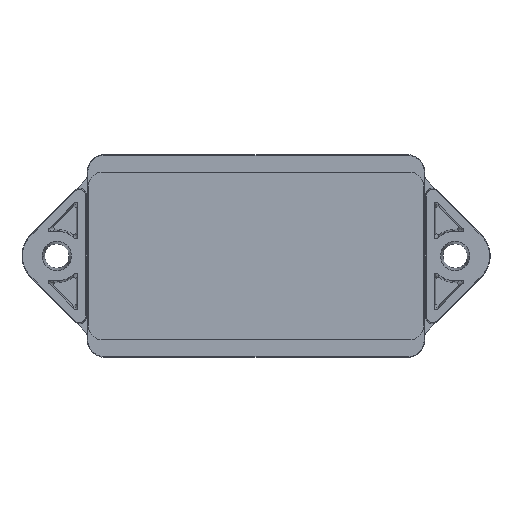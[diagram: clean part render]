
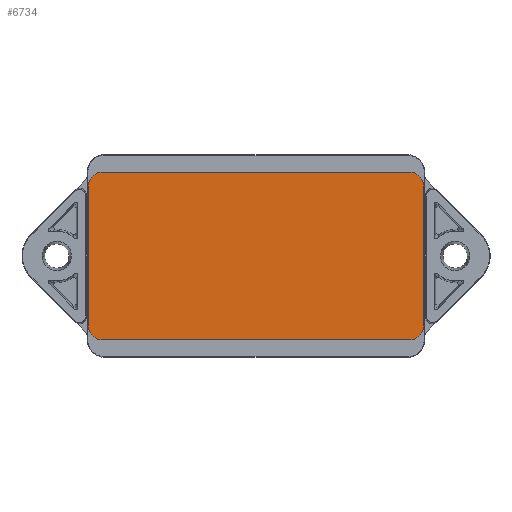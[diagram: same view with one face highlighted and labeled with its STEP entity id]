
A CAD part, front view. The second image highlights one B-rep face of the part: STEP entity #6734.
In plain terms, the highlighted planar face has unit normal (0, -1, 0).
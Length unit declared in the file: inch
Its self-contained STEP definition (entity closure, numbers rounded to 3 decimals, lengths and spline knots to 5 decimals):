
#963 = VECTOR ( 'NONE', #164866, 39.37008 ) ;
#1435 = EDGE_CURVE ( 'NONE', #148524, #160341, #168829, .T. ) ;
#2315 = ORIENTED_EDGE ( 'NONE', *, *, #69785, .F. ) ;
#2777 = DIRECTION ( 'NONE',  ( 0., 1., 0. ) ) ;
#2778 = VERTEX_POINT ( 'NONE', #148550 ) ;
#6734 = ADVANCED_FACE ( 'NONE', ( #28678 ), #79162, .F. ) ;
#10732 = VERTEX_POINT ( 'NONE', #32010 ) ;
#15305 = CARTESIAN_POINT ( 'NONE',  ( 1.5, 0., -0.625 ) ) ;
#15777 = DIRECTION ( 'NONE',  ( 0., 0., 1. ) ) ;
#16550 = EDGE_CURVE ( 'NONE', #104611, #161802, #146820, .T. ) ;
#18537 = EDGE_LOOP ( 'NONE', ( #21933, #114283, #2315, #121106, #44654, #78905, #100003, #59795 ) ) ;
#19178 = AXIS2_PLACEMENT_3D ( 'NONE', #59238, #72277, #46141 ) ;
#21933 = ORIENTED_EDGE ( 'NONE', *, *, #129971, .F. ) ;
#24961 = CIRCLE ( 'NONE', #49922, 0.125 ) ;
#26947 = DIRECTION ( 'NONE',  ( 0., 1., 0. ) ) ;
#28678 = FACE_OUTER_BOUND ( 'NONE', #18537, .T. ) ;
#30191 = CARTESIAN_POINT ( 'NONE',  ( -1.5, 0., -0.625 ) ) ;
#31385 = EDGE_CURVE ( 'NONE', #2778, #90215, #95465, .T. ) ;
#32010 = CARTESIAN_POINT ( 'NONE',  ( 1.5, 0., 0.625 ) ) ;
#40815 = CARTESIAN_POINT ( 'NONE',  ( 0., 0., 0. ) ) ;
#44654 = ORIENTED_EDGE ( 'NONE', *, *, #118508, .F. ) ;
#46141 = DIRECTION ( 'NONE',  ( 1., 0., 0. ) ) ;
#49922 = AXIS2_PLACEMENT_3D ( 'NONE', #124385, #95732, #15777 ) ;
#57852 = EDGE_CURVE ( 'NONE', #161802, #148524, #112670, .T. ) ;
#58373 = DIRECTION ( 'NONE',  ( 0., 0., -1. ) ) ;
#58873 = DIRECTION ( 'NONE',  ( 0., 0., 1. ) ) ;
#59238 = CARTESIAN_POINT ( 'NONE',  ( 1.375, 0., -0.625 ) ) ;
#59795 = ORIENTED_EDGE ( 'NONE', *, *, #16550, .F. ) ;
#68895 = VECTOR ( 'NONE', #140365, 39.37008 ) ;
#69785 = EDGE_CURVE ( 'NONE', #90215, #72019, #139716, .T. ) ;
#72019 = VERTEX_POINT ( 'NONE', #155694 ) ;
#72277 = DIRECTION ( 'NONE',  ( 0., 1., 0. ) ) ;
#78905 = ORIENTED_EDGE ( 'NONE', *, *, #1435, .F. ) ;
#79162 = PLANE ( 'NONE',  #86731 ) ;
#84211 = DIRECTION ( 'NONE',  ( 0., 1., 0. ) ) ;
#86731 = AXIS2_PLACEMENT_3D ( 'NONE', #40815, #26947, #157287 ) ;
#90215 = VERTEX_POINT ( 'NONE', #125193 ) ;
#91592 = EDGE_CURVE ( 'NONE', #72019, #10732, #24961, .T. ) ;
#95465 = CIRCLE ( 'NONE', #117720, 0.125 ) ;
#95732 = DIRECTION ( 'NONE',  ( 0., 1., 0. ) ) ;
#98939 = DIRECTION ( 'NONE',  ( 1., 0., 0. ) ) ;
#100003 = ORIENTED_EDGE ( 'NONE', *, *, #57852, .F. ) ;
#100542 = LINE ( 'NONE', #124964, #124538 ) ;
#104611 = VERTEX_POINT ( 'NONE', #15305 ) ;
#111946 = CARTESIAN_POINT ( 'NONE',  ( 1.5, 0., 0.625 ) ) ;
#112670 = LINE ( 'NONE', #165604, #68895 ) ;
#114283 = ORIENTED_EDGE ( 'NONE', *, *, #91592, .F. ) ;
#117720 = AXIS2_PLACEMENT_3D ( 'NONE', #121624, #84211, #137114 ) ;
#118508 = EDGE_CURVE ( 'NONE', #160341, #2778, #100542, .T. ) ;
#121106 = ORIENTED_EDGE ( 'NONE', *, *, #31385, .F. ) ;
#121624 = CARTESIAN_POINT ( 'NONE',  ( -1.375, 0., 0.625 ) ) ;
#121905 = CARTESIAN_POINT ( 'NONE',  ( -1.375, 0., -0.625 ) ) ;
#124385 = CARTESIAN_POINT ( 'NONE',  ( 1.375, 0., 0.625 ) ) ;
#124538 = VECTOR ( 'NONE', #58873, 39.37008 ) ;
#124964 = CARTESIAN_POINT ( 'NONE',  ( -1.5, 0., -0.625 ) ) ;
#125193 = CARTESIAN_POINT ( 'NONE',  ( -1.375, 0., 0.75 ) ) ;
#129971 = EDGE_CURVE ( 'NONE', #10732, #104611, #137083, .T. ) ;
#131675 = VECTOR ( 'NONE', #98939, 39.37008 ) ;
#132444 = CARTESIAN_POINT ( 'NONE',  ( -1.375, 0., -0.75 ) ) ;
#137083 = LINE ( 'NONE', #111946, #963 ) ;
#137114 = DIRECTION ( 'NONE',  ( -1., 0., 0. ) ) ;
#139716 = LINE ( 'NONE', #142288, #131675 ) ;
#140365 = DIRECTION ( 'NONE',  ( -1., 0., 0. ) ) ;
#142288 = CARTESIAN_POINT ( 'NONE',  ( -1.375, 0., 0.75 ) ) ;
#146820 = CIRCLE ( 'NONE', #19178, 0.125 ) ;
#148524 = VERTEX_POINT ( 'NONE', #132444 ) ;
#148550 = CARTESIAN_POINT ( 'NONE',  ( -1.5, 0., 0.625 ) ) ;
#148890 = CARTESIAN_POINT ( 'NONE',  ( 1.375, 0., -0.75 ) ) ;
#149342 = AXIS2_PLACEMENT_3D ( 'NONE', #121905, #2777, #58373 ) ;
#155694 = CARTESIAN_POINT ( 'NONE',  ( 1.375, 0., 0.75 ) ) ;
#157287 = DIRECTION ( 'NONE',  ( 0., 0., 1. ) ) ;
#160341 = VERTEX_POINT ( 'NONE', #30191 ) ;
#161802 = VERTEX_POINT ( 'NONE', #148890 ) ;
#164866 = DIRECTION ( 'NONE',  ( 0., 0., -1. ) ) ;
#165604 = CARTESIAN_POINT ( 'NONE',  ( 1.375, 0., -0.75 ) ) ;
#168829 = CIRCLE ( 'NONE', #149342, 0.125 ) ;
